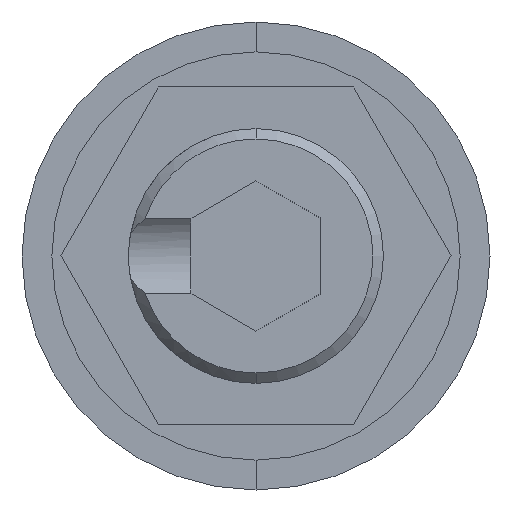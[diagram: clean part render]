
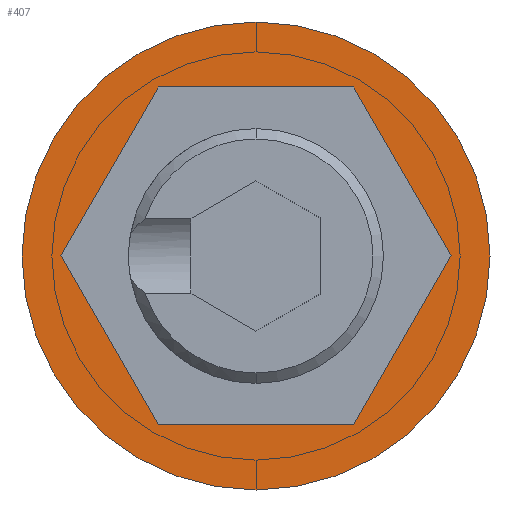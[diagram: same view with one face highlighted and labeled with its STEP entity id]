
A CAD part, front view. The second image highlights one B-rep face of the part: STEP entity #407.
In plain terms, the highlighted planar face has unit normal (0, -1, 0).
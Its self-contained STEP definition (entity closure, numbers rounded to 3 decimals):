
#5 = CIRCLE ( 'NONE', #137, 4.5 ) ;
#41 = DIRECTION ( 'NONE',  ( 0., 0., -1. ) ) ;
#48 = EDGE_CURVE ( 'NONE', #960, #1619, #73, .T. ) ;
#59 = VECTOR ( 'NONE', #747, 1000. ) ;
#68 = DIRECTION ( 'NONE',  ( -1., 0., 0. ) ) ;
#73 = LINE ( 'NONE', #671, #59 ) ;
#137 = AXIS2_PLACEMENT_3D ( 'NONE', #907, #909, #910 ) ;
#195 = VERTEX_POINT ( 'NONE', #873 ) ;
#207 = VERTEX_POINT ( 'NONE', #835 ) ;
#220 = AXIS2_PLACEMENT_3D ( 'NONE', #1157, #1169, #1170 ) ;
#229 = DIRECTION ( 'NONE',  ( 0.5, 0., 0.866 ) ) ;
#231 = VECTOR ( 'NONE', #1253, 1000. ) ;
#248 = EDGE_CURVE ( 'NONE', #1777, #1709, #5, .T. ) ;
#262 = FACE_BOUND ( 'NONE', #1631, .T. ) ;
#266 = LINE ( 'NONE', #1261, #231 ) ;
#300 = FACE_OUTER_BOUND ( 'NONE', #2184, .T. ) ;
#361 = VERTEX_POINT ( 'NONE', #1063 ) ;
#407 = ADVANCED_FACE ( 'NONE', ( #262, #300 ), #1148, .T. ) ;
#441 = DIRECTION ( 'NONE',  ( 0., -1., 0. ) ) ;
#449 = EDGE_CURVE ( 'NONE', #207, #960, #266, .T. ) ;
#481 = CARTESIAN_POINT ( 'NONE',  ( 0., 0., 0. ) ) ;
#499 = CARTESIAN_POINT ( 'NONE',  ( 1.876, 0., -3.25 ) ) ;
#651 = AXIS2_PLACEMENT_3D ( 'NONE', #481, #441, #41 ) ;
#671 = CARTESIAN_POINT ( 'NONE',  ( -3.753, 0., 0. ) ) ;
#747 = DIRECTION ( 'NONE',  ( 0.5, 0., -0.866 ) ) ;
#763 = CARTESIAN_POINT ( 'NONE',  ( 0., 0., 4.5 ) ) ;
#806 = CARTESIAN_POINT ( 'NONE',  ( -1.876, 0., -3.25 ) ) ;
#835 = CARTESIAN_POINT ( 'NONE',  ( -1.876, 0., 3.25 ) ) ;
#873 = CARTESIAN_POINT ( 'NONE',  ( 1.876, 0., -3.25 ) ) ;
#907 = CARTESIAN_POINT ( 'NONE',  ( 0., 0., 0. ) ) ;
#909 = DIRECTION ( 'NONE',  ( 0., -1., 0. ) ) ;
#910 = DIRECTION ( 'NONE',  ( 0., 0., -1. ) ) ;
#915 = DIRECTION ( 'NONE',  ( 1., 0., 0. ) ) ;
#959 = ORIENTED_EDGE ( 'NONE', *, *, #449, .F. ) ;
#960 = VERTEX_POINT ( 'NONE', #2173 ) ;
#986 = CARTESIAN_POINT ( 'NONE',  ( 3.753, 0., 0. ) ) ;
#1014 = EDGE_CURVE ( 'NONE', #361, #207, #1915, .T. ) ;
#1063 = CARTESIAN_POINT ( 'NONE',  ( 1.876, 0., 3.25 ) ) ;
#1103 = CARTESIAN_POINT ( 'NONE',  ( 0., 0., -4.5 ) ) ;
#1111 = ORIENTED_EDGE ( 'NONE', *, *, #1825, .F. ) ;
#1124 = ORIENTED_EDGE ( 'NONE', *, *, #248, .T. ) ;
#1146 = ORIENTED_EDGE ( 'NONE', *, *, #2038, .T. ) ;
#1148 = PLANE ( 'NONE',  #220 ) ;
#1157 = CARTESIAN_POINT ( 'NONE',  ( 0., 0., 0. ) ) ;
#1169 = DIRECTION ( 'NONE',  ( 0., -1., 0. ) ) ;
#1170 = DIRECTION ( 'NONE',  ( 0., 0., -1. ) ) ;
#1253 = DIRECTION ( 'NONE',  ( -0.5, 0., -0.866 ) ) ;
#1261 = CARTESIAN_POINT ( 'NONE',  ( -1.876, 0., 3.25 ) ) ;
#1347 = VERTEX_POINT ( 'NONE', #986 ) ;
#1423 = CIRCLE ( 'NONE', #651, 4.5 ) ;
#1497 = EDGE_CURVE ( 'NONE', #1347, #361, #1637, .T. ) ;
#1578 = VECTOR ( 'NONE', #1675, 1000. ) ;
#1619 = VERTEX_POINT ( 'NONE', #2018 ) ;
#1631 = EDGE_LOOP ( 'NONE', ( #1885, #1974, #959, #2091, #2045, #1111 ) ) ;
#1637 = LINE ( 'NONE', #1714, #1578 ) ;
#1675 = DIRECTION ( 'NONE',  ( -0.5, 0., 0.866 ) ) ;
#1709 = VERTEX_POINT ( 'NONE', #763 ) ;
#1714 = CARTESIAN_POINT ( 'NONE',  ( 3.753, 0., 0. ) ) ;
#1724 = EDGE_CURVE ( 'NONE', #1619, #195, #2271, .T. ) ;
#1777 = VERTEX_POINT ( 'NONE', #1103 ) ;
#1825 = EDGE_CURVE ( 'NONE', #195, #1347, #1899, .T. ) ;
#1863 = VECTOR ( 'NONE', #68, 1000. ) ;
#1885 = ORIENTED_EDGE ( 'NONE', *, *, #1724, .F. ) ;
#1898 = VECTOR ( 'NONE', #229, 1000. ) ;
#1899 = LINE ( 'NONE', #499, #1898 ) ;
#1915 = LINE ( 'NONE', #2267, #1863 ) ;
#1974 = ORIENTED_EDGE ( 'NONE', *, *, #48, .F. ) ;
#2018 = CARTESIAN_POINT ( 'NONE',  ( -1.876, 0., -3.25 ) ) ;
#2038 = EDGE_CURVE ( 'NONE', #1709, #1777, #1423, .T. ) ;
#2045 = ORIENTED_EDGE ( 'NONE', *, *, #1497, .F. ) ;
#2091 = ORIENTED_EDGE ( 'NONE', *, *, #1014, .F. ) ;
#2173 = CARTESIAN_POINT ( 'NONE',  ( -3.753, 0., 0. ) ) ;
#2184 = EDGE_LOOP ( 'NONE', ( #1124, #1146 ) ) ;
#2246 = VECTOR ( 'NONE', #915, 1000. ) ;
#2267 = CARTESIAN_POINT ( 'NONE',  ( 1.876, 0., 3.25 ) ) ;
#2271 = LINE ( 'NONE', #806, #2246 ) ;
